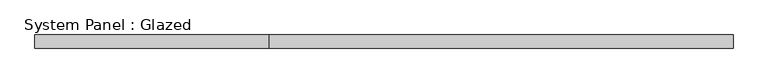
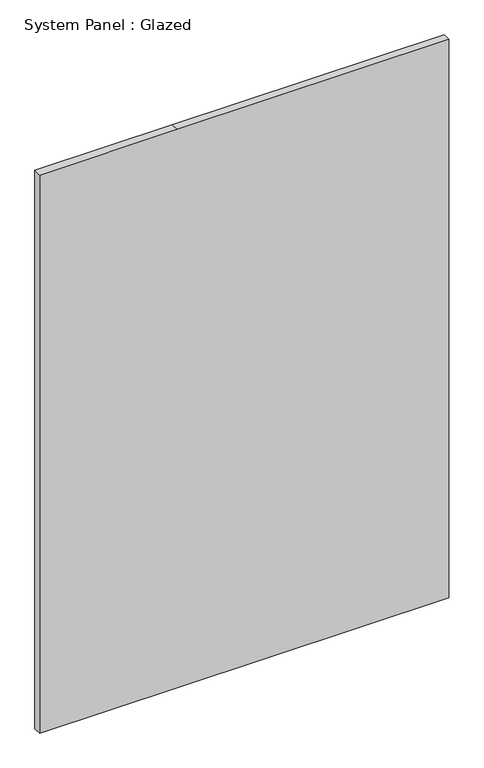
"""IFC4 building model written with IfcOpenShell, lengths in millimetres: plate geometry, System Panel : Glazed."""

from ifc_helpers import new_model, si_unit, frame, origin, place, context, project, spatial, polyline, outline, extrude, source, transform, mapped, element, save


def system_panel_glazed_da816d4c(model_context):
    return source(origin(), model_context, "Body", "SweptSolid", [
        extrude(outline(polyline([(0.0, -643.17875), (0.0, -210.97875), (0.0, 643.17875), (1854.4, 643.17875), (1854.4, -210.97875), (1854.4, -643.17875), (0.0, -643.17875)])), frame((0.0, 24.5, 0.0), z_axis=(0.0, 1.0, 0.0), x_axis=(0.0, 0.0, 1.0)), (0.0, 0.0, 1.0), 25.0),
    ])


if __name__ == "__main__":
    model = new_model("IFC4")
    model_context = context("Model", 3, world=origin())
    ifc_project = project(units=[si_unit("LENGTHUNIT", "METRE", prefix="MILLI")], contexts=[model_context])
    site = spatial("IfcSite", under=ifc_project)
    building = spatial("IfcBuilding", under=site)
    placement = place(None, origin())
    system_panel_glazed_shape = system_panel_glazed_da816d4c(model_context)
    element("IfcPlate", 1, ObjectType="System Panel : Glazed", at=placement, inside=building, context=model_context, shape_type="MappedRepresentation", body=[
        mapped(system_panel_glazed_shape, transform((0.0, 0.0, 0.0), x_axis=(1.0, 0.0, 0.0), y_axis=(0.0, 1.0, 0.0), z_axis=(0.0, 0.0, 1.0))),
    ])
    save(model, "model.ifc")
